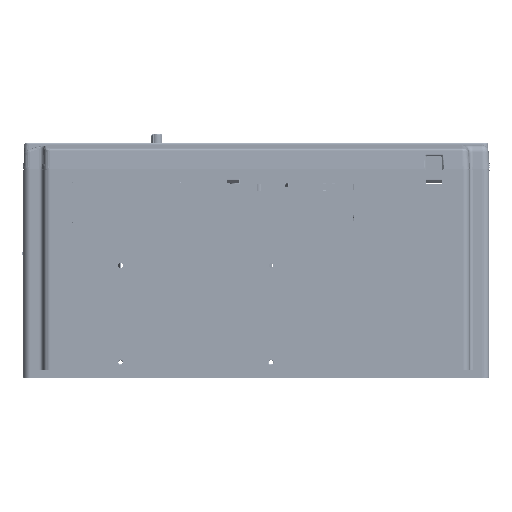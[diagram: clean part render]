
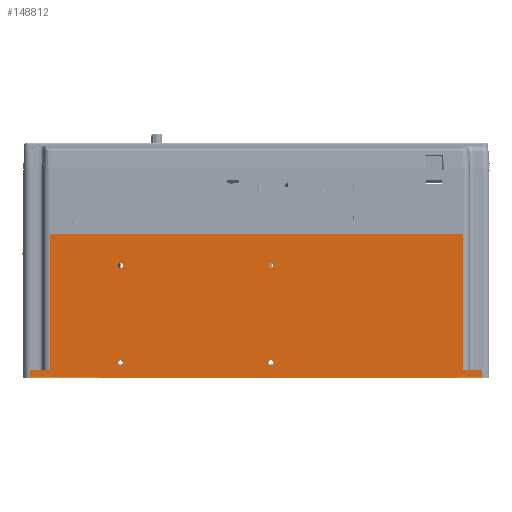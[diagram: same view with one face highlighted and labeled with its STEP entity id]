
A CAD part, left-side view. The second image highlights one B-rep face of the part: STEP entity #148812.
In plain terms, the highlighted planar face has unit normal (-1, 0, 0).
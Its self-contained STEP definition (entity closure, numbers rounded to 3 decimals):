
#117194=DIRECTION('',(0.,0.,1.));
#117195=VECTOR('',#117194,59.05);
#117196=CARTESIAN_POINT('',(-125.,-61.,-194.));
#117197=LINE('',#117196,#117195);
#117344=DIRECTION('',(0.,0.,1.));
#117345=VECTOR('',#117344,21.45);
#117346=CARTESIAN_POINT('',(-125.,-61.,172.55));
#117347=LINE('',#117346,#117345);
#118102=CARTESIAN_POINT('',(-125.,34.2,12.5));
#118103=DIRECTION('',(1.,0.,0.));
#118104=DIRECTION('',(0.,0.,1.));
#118105=AXIS2_PLACEMENT_3D('',#118102,#118103,#118104);
#118107=CARTESIAN_POINT('',(-125.,34.2,12.5));
#118108=DIRECTION('',(1.,0.,0.));
#118109=DIRECTION('',(0.,0.,-1.));
#118110=AXIS2_PLACEMENT_3D('',#118107,#118108,#118109);
#118112=CARTESIAN_POINT('',(-125.,34.2,-116.5));
#118113=DIRECTION('',(1.,0.,0.));
#118114=DIRECTION('',(0.,0.,1.));
#118115=AXIS2_PLACEMENT_3D('',#118112,#118113,#118114);
#118117=CARTESIAN_POINT('',(-125.,34.2,-116.5));
#118118=DIRECTION('',(1.,0.,0.));
#118119=DIRECTION('',(0.,0.,-1.));
#118120=AXIS2_PLACEMENT_3D('',#118117,#118118,#118119);
#118122=CARTESIAN_POINT('',(-125.,-48.8,-116.5));
#118123=DIRECTION('',(1.,0.,0.));
#118124=DIRECTION('',(0.,0.,-1.));
#118125=AXIS2_PLACEMENT_3D('',#118122,#118123,#118124);
#118127=CARTESIAN_POINT('',(-125.,-48.8,-116.5));
#118128=DIRECTION('',(1.,0.,0.));
#118129=DIRECTION('',(0.,0.,1.));
#118130=AXIS2_PLACEMENT_3D('',#118127,#118128,#118129);
#118132=CARTESIAN_POINT('',(-125.,-48.8,12.5));
#118133=DIRECTION('',(1.,0.,0.));
#118134=DIRECTION('',(0.,0.,-1.));
#118135=AXIS2_PLACEMENT_3D('',#118132,#118133,#118134);
#118137=CARTESIAN_POINT('',(-125.,-48.8,12.5));
#118138=DIRECTION('',(1.,0.,0.));
#118139=DIRECTION('',(0.,0.,1.));
#118140=AXIS2_PLACEMENT_3D('',#118137,#118138,#118139);
#118142=DIRECTION('',(0.,0.,-1.));
#118143=VECTOR('',#118142,307.);
#118144=CARTESIAN_POINT('',(-125.,-62.3,172.05));
#118145=LINE('',#118144,#118143);
#118146=DIRECTION('',(0.,-1.,0.));
#118147=VECTOR('',#118146,6.);
#118148=CARTESIAN_POINT('',(-125.,-55.,-194.));
#118149=LINE('',#118148,#118147);
#118150=DIRECTION('',(0.,-1.,0.));
#118151=VECTOR('',#118150,116.);
#118152=CARTESIAN_POINT('',(-125.,61.,-177.));
#118153=LINE('',#118152,#118151);
#118154=DIRECTION('',(0.,1.,0.));
#118155=VECTOR('',#118154,116.);
#118156=CARTESIAN_POINT('',(-125.,-55.,177.));
#118157=LINE('',#118156,#118155);
#118158=DIRECTION('',(0.,-1.,0.));
#118159=VECTOR('',#118158,6.);
#118160=CARTESIAN_POINT('',(-125.,-55.,194.));
#118161=LINE('',#118160,#118159);
#118162=DIRECTION('',(0.,-1.,0.));
#118163=VECTOR('',#118162,0.8);
#118164=CARTESIAN_POINT('',(-125.,-61.,172.55));
#118165=LINE('',#118164,#118163);
#118166=DIRECTION('',(0.,0.707,0.707));
#118167=VECTOR('',#118166,0.707);
#118168=CARTESIAN_POINT('',(-125.,-62.3,172.05));
#118169=LINE('',#118168,#118167);
#121704=DIRECTION('',(0.,0.,1.));
#121705=VECTOR('',#121704,354.);
#121706=CARTESIAN_POINT('',(-125.,61.,-177.));
#121707=LINE('',#121706,#121705);
#121958=DIRECTION('',(0.,0.,-1.));
#121959=VECTOR('',#121958,17.);
#121960=CARTESIAN_POINT('',(-125.,-55.,-177.));
#121961=LINE('',#121960,#121959);
#122049=DIRECTION('',(0.,0.,-1.));
#122050=VECTOR('',#122049,17.);
#122051=CARTESIAN_POINT('',(-125.,-55.,194.));
#122052=LINE('',#122051,#122050);
#140298=DIRECTION('',(0.,1.,0.));
#140299=VECTOR('',#140298,1.3);
#140300=CARTESIAN_POINT('',(-125.,-62.3,-134.95));
#140301=LINE('',#140300,#140299);
#141343=CARTESIAN_POINT('',(-125.,61.,177.));
#141345=VERTEX_POINT('',#141343);
#141349=CARTESIAN_POINT('',(-125.,-55.,177.));
#141350=VERTEX_POINT('',#141349);
#141403=CARTESIAN_POINT('',(-125.,61.,-177.));
#141404=VERTEX_POINT('',#141403);
#141405=CARTESIAN_POINT('',(-125.,-55.,-177.));
#141406=VERTEX_POINT('',#141405);
#141451=CARTESIAN_POINT('',(-125.,-55.,194.));
#141452=CARTESIAN_POINT('',(-125.,-61.,194.));
#141453=VERTEX_POINT('',#141451);
#141454=VERTEX_POINT('',#141452);
#141455=CARTESIAN_POINT('',(-125.,-61.,-194.));
#141457=VERTEX_POINT('',#141455);
#141461=CARTESIAN_POINT('',(-125.,-55.,-194.));
#141462=VERTEX_POINT('',#141461);
#143710=CARTESIAN_POINT('',(-125.,-48.8,-119.));
#143711=CARTESIAN_POINT('',(-125.,-48.8,-114.));
#143712=VERTEX_POINT('',#143710);
#143713=VERTEX_POINT('',#143711);
#143714=CARTESIAN_POINT('',(-125.,-48.8,10.));
#143715=CARTESIAN_POINT('',(-125.,-48.8,15.));
#143716=VERTEX_POINT('',#143714);
#143717=VERTEX_POINT('',#143715);
#143790=CARTESIAN_POINT('',(-125.,34.2,14.5));
#143791=CARTESIAN_POINT('',(-125.,34.2,10.5));
#143792=VERTEX_POINT('',#143790);
#143793=VERTEX_POINT('',#143791);
#143794=CARTESIAN_POINT('',(-125.,34.2,-114.5));
#143795=CARTESIAN_POINT('',(-125.,34.2,-118.5));
#143796=VERTEX_POINT('',#143794);
#143797=VERTEX_POINT('',#143795);
#146680=CARTESIAN_POINT('',(-125.,-61.,172.55));
#146681=VERTEX_POINT('',#146680);
#146698=CARTESIAN_POINT('',(-125.,-62.3,172.05));
#146699=CARTESIAN_POINT('',(-125.,-61.8,172.55));
#146700=VERTEX_POINT('',#146698);
#146701=VERTEX_POINT('',#146699);
#147462=CARTESIAN_POINT('',(-125.,-61.,-134.95));
#147463=VERTEX_POINT('',#147462);
#147466=CARTESIAN_POINT('',(-125.,-62.3,-134.95));
#147467=VERTEX_POINT('',#147466);
#148758=CARTESIAN_POINT('',(-125.,-61.,-200.));
#148759=DIRECTION('',(-1.,0.,0.));
#148760=DIRECTION('',(0.,0.,1.));
#148761=AXIS2_PLACEMENT_3D('',#148758,#148759,#148760);
#148762=PLANE('',#148761);
#148764=ORIENTED_EDGE('',*,*,#148763,.T.);
#148766=ORIENTED_EDGE('',*,*,#148765,.T.);
#148767=ORIENTED_EDGE('',*,*,#147804,.F.);
#148769=ORIENTED_EDGE('',*,*,#148768,.F.);
#148771=ORIENTED_EDGE('',*,*,#148770,.F.);
#148773=ORIENTED_EDGE('',*,*,#148772,.F.);
#148775=ORIENTED_EDGE('',*,*,#148774,.T.);
#148777=ORIENTED_EDGE('',*,*,#148776,.F.);
#148779=ORIENTED_EDGE('',*,*,#148778,.F.);
#148781=ORIENTED_EDGE('',*,*,#148780,.T.);
#148782=ORIENTED_EDGE('',*,*,#148030,.F.);
#148784=ORIENTED_EDGE('',*,*,#148783,.T.);
#148786=ORIENTED_EDGE('',*,*,#148785,.F.);
#148787=EDGE_LOOP('',(#148764,#148766,#148767,#148769,#148771,#148773,#148775,
#148777,#148779,#148781,#148782,#148784,#148786));
#148788=FACE_OUTER_BOUND('',#148787,.F.);
#148790=ORIENTED_EDGE('',*,*,#148789,.F.);
#148792=ORIENTED_EDGE('',*,*,#148791,.F.);
#148793=EDGE_LOOP('',(#148790,#148792));
#148794=FACE_BOUND('',#148793,.F.);
#148795=ORIENTED_EDGE('',*,*,#148732,.F.);
#148797=ORIENTED_EDGE('',*,*,#148796,.F.);
#148798=EDGE_LOOP('',(#148795,#148797));
#148799=FACE_BOUND('',#148798,.F.);
#148801=ORIENTED_EDGE('',*,*,#148800,.F.);
#148803=ORIENTED_EDGE('',*,*,#148802,.F.);
#148804=EDGE_LOOP('',(#148801,#148803));
#148805=FACE_BOUND('',#148804,.F.);
#148807=ORIENTED_EDGE('',*,*,#148806,.F.);
#148809=ORIENTED_EDGE('',*,*,#148808,.F.);
#148810=EDGE_LOOP('',(#148807,#148809));
#148811=FACE_BOUND('',#148810,.F.);
#118106=CIRCLE('',#118105,2.);
#118111=CIRCLE('',#118110,2.);
#118116=CIRCLE('',#118115,2.);
#118121=CIRCLE('',#118120,2.);
#118126=CIRCLE('',#118125,2.5);
#118131=CIRCLE('',#118130,2.5);
#118136=CIRCLE('',#118135,2.5);
#118141=CIRCLE('',#118140,2.5);
#147804=EDGE_CURVE('',#141457,#147463,#117197,.T.);
#148030=EDGE_CURVE('',#146681,#141454,#117347,.T.);
#148732=EDGE_CURVE('',#143712,#143713,#118126,.T.);
#148763=EDGE_CURVE('',#146700,#147467,#118145,.T.);
#148765=EDGE_CURVE('',#147467,#147463,#140301,.T.);
#148768=EDGE_CURVE('',#141462,#141457,#118149,.T.);
#148770=EDGE_CURVE('',#141406,#141462,#121961,.T.);
#148772=EDGE_CURVE('',#141404,#141406,#118153,.T.);
#148774=EDGE_CURVE('',#141404,#141345,#121707,.T.);
#148776=EDGE_CURVE('',#141350,#141345,#118157,.T.);
#148778=EDGE_CURVE('',#141453,#141350,#122052,.T.);
#148780=EDGE_CURVE('',#141453,#141454,#118161,.T.);
#148783=EDGE_CURVE('',#146681,#146701,#118165,.T.);
#148785=EDGE_CURVE('',#146700,#146701,#118169,.T.);
#148789=EDGE_CURVE('',#143796,#143797,#118116,.T.);
#148791=EDGE_CURVE('',#143797,#143796,#118121,.T.);
#148796=EDGE_CURVE('',#143713,#143712,#118131,.T.);
#148800=EDGE_CURVE('',#143716,#143717,#118136,.T.);
#148802=EDGE_CURVE('',#143717,#143716,#118141,.T.);
#148806=EDGE_CURVE('',#143792,#143793,#118106,.T.);
#148808=EDGE_CURVE('',#143793,#143792,#118111,.T.);
#148812=ADVANCED_FACE('',(#148788,#148794,#148799,#148805,#148811),#148762,.T.);
